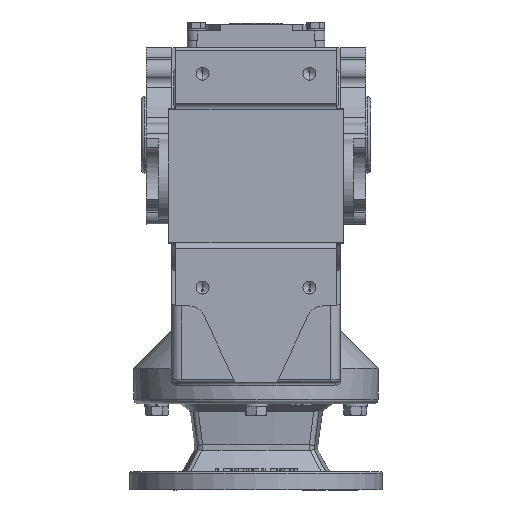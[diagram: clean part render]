
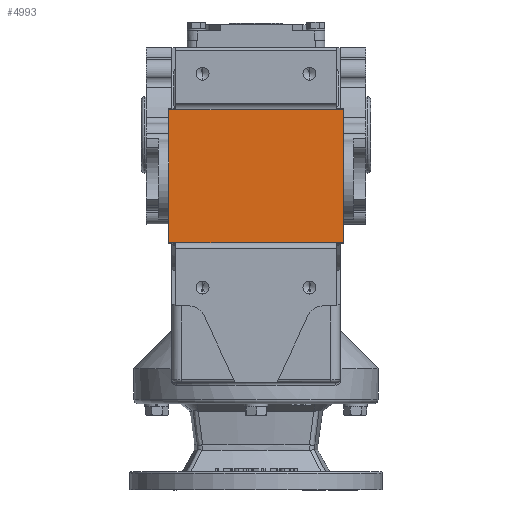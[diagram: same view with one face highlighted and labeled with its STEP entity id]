
A CAD part, front view. The second image highlights one B-rep face of the part: STEP entity #4993.
In plain terms, the highlighted planar face has unit normal (0, -1, 0).
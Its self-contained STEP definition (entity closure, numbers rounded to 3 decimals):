
#883 = DIRECTION ( 'NONE',  ( -1., 0., 0. ) ) ;
#884 = DIRECTION ( 'NONE',  ( 0., 1., 0. ) ) ;
#923 = PLANE ( 'NONE',  #18188 ) ;
#924 = CARTESIAN_POINT ( 'NONE',  ( 80., -107., -70.5 ) ) ;
#4993 = ADVANCED_FACE ( 'NONE', ( #37449 ), #923, .F. ) ;
#6315 = LINE ( 'NONE', #11985, #6319 ) ;
#6319 = VECTOR ( 'NONE', #11990, 1000. ) ;
#6338 = LINE ( 'NONE', #12041, #6341 ) ;
#6339 = LINE ( 'NONE', #12052, #6343 ) ;
#6341 = VECTOR ( 'NONE', #12053, 1000. ) ;
#6343 = VECTOR ( 'NONE', #12054, 1000. ) ;
#6344 = CIRCLE ( 'NONE', #30645, 5. ) ;
#6351 = LINE ( 'NONE', #12070, #6355 ) ;
#6354 = CIRCLE ( 'NONE', #30640, 5. ) ;
#6355 = VECTOR ( 'NONE', #12075, 1000. ) ;
#11985 = CARTESIAN_POINT ( 'NONE',  ( 80., -107., 16.5 ) ) ;
#11990 = DIRECTION ( 'NONE',  ( -1., 0., 0. ) ) ;
#12041 = CARTESIAN_POINT ( 'NONE',  ( -57., -107., -69.5 ) ) ;
#12052 = CARTESIAN_POINT ( 'NONE',  ( 80., -107., -70.5 ) ) ;
#12053 = DIRECTION ( 'NONE',  ( 0., 0., 1. ) ) ;
#12054 = DIRECTION ( 'NONE',  ( -1., 0., 0. ) ) ;
#12061 = CARTESIAN_POINT ( 'NONE',  ( 62., -107., 15.5 ) ) ;
#12062 = DIRECTION ( 'NONE',  ( 0., 1., 0. ) ) ;
#12063 = DIRECTION ( 'NONE',  ( -1., 0., 0. ) ) ;
#12070 = CARTESIAN_POINT ( 'NONE',  ( 57., -107., 16.5 ) ) ;
#12075 = DIRECTION ( 'NONE',  ( 0., 0., -1. ) ) ;
#12082 = CARTESIAN_POINT ( 'NONE',  ( 62., -107., -69.5 ) ) ;
#12083 = DIRECTION ( 'NONE',  ( 0., 1., 0. ) ) ;
#12084 = DIRECTION ( 'NONE',  ( -1., 0., 0. ) ) ;
#18188 = AXIS2_PLACEMENT_3D ( 'NONE', #924, #884, #883 ) ;
#18588 = EDGE_CURVE ( 'NONE', #36473, #36476, #6315, .T. ) ;
#18625 = EDGE_CURVE ( 'NONE', #36477, #36476, #6338, .T. ) ;
#18627 = EDGE_CURVE ( 'NONE', #36478, #36477, #6339, .T. ) ;
#18633 = EDGE_CURVE ( 'NONE', #36474, #36473, #6344, .T. ) ;
#18644 = EDGE_CURVE ( 'NONE', #36474, #36481, #6351, .T. ) ;
#18650 = EDGE_CURVE ( 'NONE', #36478, #36481, #6354, .T. ) ;
#20066 = CARTESIAN_POINT ( 'NONE',  ( 57.101, -107., 16.5 ) ) ;
#20067 = CARTESIAN_POINT ( 'NONE',  ( 57., -107., 15.5 ) ) ;
#20069 = CARTESIAN_POINT ( 'NONE',  ( -57., -107., 16.5 ) ) ;
#20070 = CARTESIAN_POINT ( 'NONE',  ( -57., -107., -70.5 ) ) ;
#20071 = CARTESIAN_POINT ( 'NONE',  ( 57.101, -107., -70.5 ) ) ;
#20074 = CARTESIAN_POINT ( 'NONE',  ( 57., -107., -69.5 ) ) ;
#30180 = EDGE_LOOP ( 'NONE', ( #35134, #35133, #35132, #35131, #35130, #35129 ) ) ;
#30640 = AXIS2_PLACEMENT_3D ( 'NONE', #12082, #12083, #12084 ) ;
#30645 = AXIS2_PLACEMENT_3D ( 'NONE', #12061, #12062, #12063 ) ;
#35129 = ORIENTED_EDGE ( 'NONE', *, *, #18633, .T. ) ;
#35130 = ORIENTED_EDGE ( 'NONE', *, *, #18644, .F. ) ;
#35131 = ORIENTED_EDGE ( 'NONE', *, *, #18650, .T. ) ;
#35132 = ORIENTED_EDGE ( 'NONE', *, *, #18627, .F. ) ;
#35133 = ORIENTED_EDGE ( 'NONE', *, *, #18625, .F. ) ;
#35134 = ORIENTED_EDGE ( 'NONE', *, *, #18588, .T. ) ;
#36473 = VERTEX_POINT ( 'NONE', #20066 ) ;
#36474 = VERTEX_POINT ( 'NONE', #20067 ) ;
#36476 = VERTEX_POINT ( 'NONE', #20069 ) ;
#36477 = VERTEX_POINT ( 'NONE', #20070 ) ;
#36478 = VERTEX_POINT ( 'NONE', #20071 ) ;
#36481 = VERTEX_POINT ( 'NONE', #20074 ) ;
#37449 = FACE_OUTER_BOUND ( 'NONE', #30180, .T. ) ;
